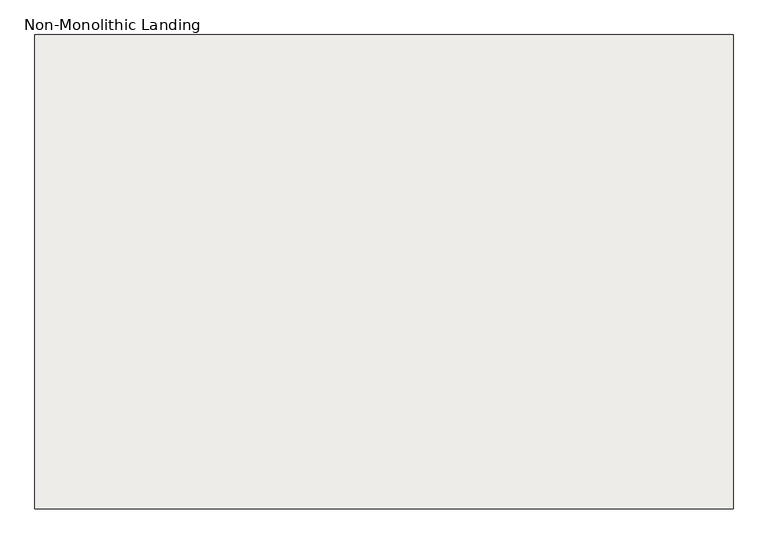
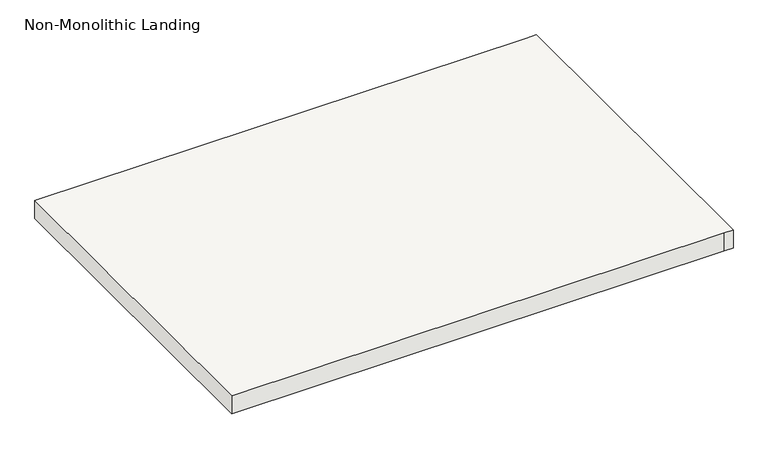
"""IFC4 building model written with IfcOpenShell, lengths in millimetres: slab geometry, Non-Monolithic Landing."""

from ifc_helpers import new_model, si_unit, frame, origin, place, context, project, spatial, polyline, outline, extrude, source, transform, mapped, element, save


def non_monolithic_landing_64d1daa8(model_context):
    return source(origin(), model_context, "Body", "SweptSolid", [
        extrude(outline(polyline([(-20411.0686345, 32392.3025717), (-19090.2686345, 32392.3025717), (-19064.8686345, 32392.3025717), (-19064.8686345, 31477.9025717), (-19090.2686345, 31477.9025717), (-20411.0686345, 31477.9025717), (-20411.0686345, 32392.3025717)])), frame((0.0, 0.0, 2126.3428571), z_axis=(0.0, 0.0, 1.0), x_axis=(1.0, 0.0, 0.0)), (0.0, 0.0, 1.0), 50.8),
    ])


if __name__ == "__main__":
    model = new_model("IFC4")
    model_context = context("Model", 3, world=origin())
    ifc_project = project(units=[si_unit("LENGTHUNIT", "METRE", prefix="MILLI")], contexts=[model_context])
    site = spatial("IfcSite", under=ifc_project)
    building = spatial("IfcBuilding", under=site)
    placement = place(None, origin())
    non_monolithic_landing_shape = non_monolithic_landing_64d1daa8(model_context)
    element("IfcSlab", 1, ObjectType="Non-Monolithic Landing", at=placement, inside=building, context=model_context, shape_type="MappedRepresentation", body=[
        mapped(non_monolithic_landing_shape, transform((0.0, 0.0, 0.0), x_axis=(1.0, 0.0, 0.0), y_axis=(0.0, 1.0, 0.0), z_axis=(0.0, 0.0, 1.0))),
    ])
    save(model, "model.ifc")
